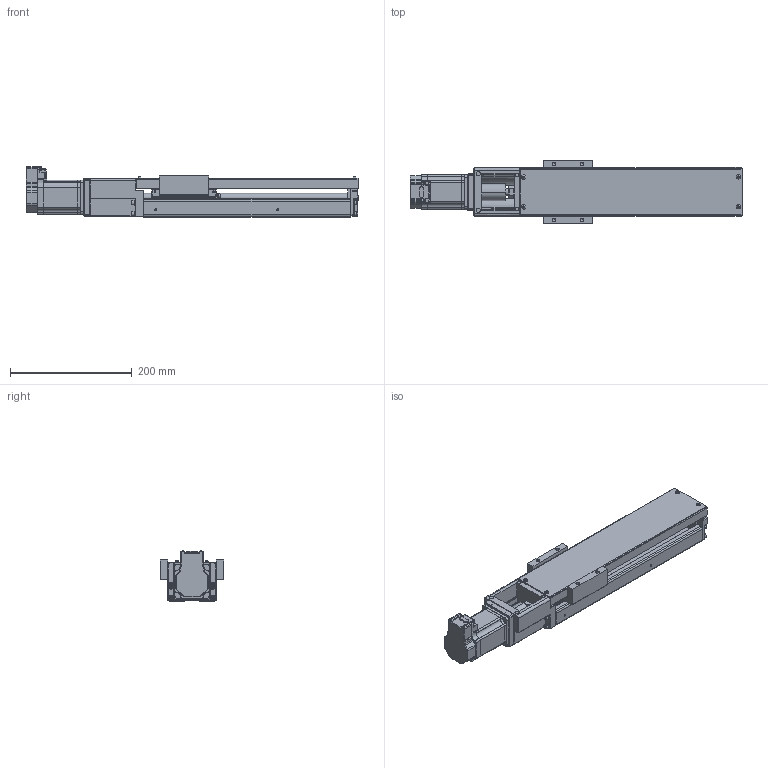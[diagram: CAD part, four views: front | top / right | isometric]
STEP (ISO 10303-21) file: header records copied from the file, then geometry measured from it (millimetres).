
FILE_DESCRIPTION(('FreeCAD Model'),'2;1');
FILE_NAME('Open CASCADE Shape Model','2023-07-31T09:41:22',('Author'),( ''),'Open CASCADE STEP processor 7.5','FreeCAD','Unknown');
FILE_SCHEMA(('AUTOMOTIVE_DESIGN { 1 0 10303 214 1 1 1 1 }'));
Length unit declared in the file: millimetre
Products named in the file (60): SCKR6A_025_200_B; KR45H-SliderCS; KR45H-Slider SpacerCS; Shapes058; Shapes059; Shapes060; Shapes061; Shapes062; Shapes063; Shapes064; Shapes065; Shapes066; Shapes067; Shapes068; Shapes069; Shapes070; Shapes071; Shapes072; Shapes073; Shapes074; Shapes075; Shapes076; Shapes077; Shapes078; Shapes079; Shapes080; Shapes081; Shapes082; Shapes083; Shapes084; Shapes085; Shapes086; Shapes087; Shapes088; Shapes089; Shapes090; Shapes091; Shapes092; Shapes093; Shapes094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
Assembly tree (59 placements, depth 2):
  SCKR6A_025_200_B
    KR45H-SliderCS
    KR45H-Slider SpacerCS
    Shapes058
    Shapes059
    Shapes060
    Shapes061
    Shapes062
    Shapes063
    Shapes064
    Shapes065
    Shapes066
    Shapes067
    Shapes068
    Shapes069
    Shapes070
    Shapes071
    Shapes072
    Shapes073
    Shapes074
    Shapes075
    Shapes076
    Shapes077
    Shapes078
    Shapes079
    Shapes080
    Shapes081
    Shapes082
    Shapes083
    Shapes084
    Shapes085
    Shapes086
    Shapes087
    Shapes088
    Shapes089
    Shapes090
    Shapes091
    Shapes092
    Shapes093
    Shapes094
    Shapes095
    Shapes096
    Shapes097
    Shapes098
    Shapes099
    Shapes100
    Shapes101
    Shapes102
    Shapes103
    Shapes104
    Shapes105
    Shapes106
    Shapes107
    Shapes108
    Shapes109
    Shapes110
    Shapes111
    Shapes113
    Shapes114
    Shapes115
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Bounding box: 545.01 x 104 x 82.36 mm (x, y, z)
Volume: 1548836.1 mm3; surface area: 395439 mm2
Topology: 59 solids, 59 shells, 2307 faces, 5690 edges, 3497 vertices
Faces by surface type: cylinder 898, plane 828, torus 348, cone 130, bspline 89, sphere 14
Entity records: 160582 total; most frequent: CARTESIAN_POINT 43512, DIRECTION 22941, LINE 12541, VECTOR 12541, ORIENTED_EDGE 11260, PCURVE 11260, DEFINITIONAL_REPRESENTATION 11260, EDGE_CURVE 5630
